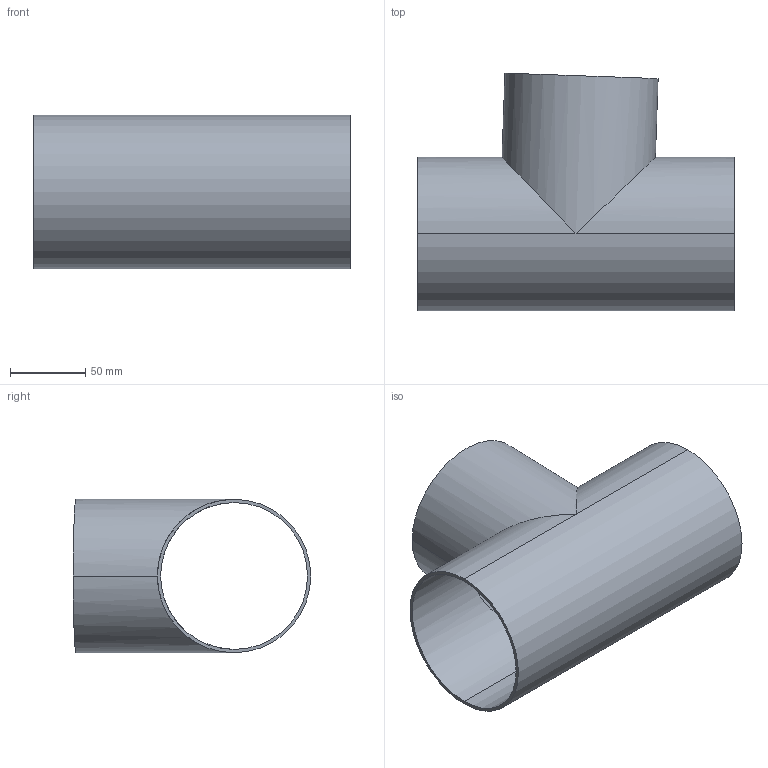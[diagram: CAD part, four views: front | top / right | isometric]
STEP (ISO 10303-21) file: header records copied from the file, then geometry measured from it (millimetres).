
FILE_DESCRIPTION (( 'STEP AP214' ), '1' );
FILE_NAME ('TE7WWW886L4.0-...STEP', '2016-05-23T04:59:21', ( 'eran' ), ( '' ), 'SwSTEP 2.0', 'SolidWorks 2016', '' );
FILE_SCHEMA (( 'AUTOMOTIVE_DESIGN' ));
Length unit declared in the file: millimetre
Products named in the file (1): TE7WWW886L4.0-..
Bounding box: 209.6 x 157.37 x 101.6 mm (x, y, z)
Volume: 165613.2 mm3; surface area: 161579.4 mm2
Topology: 2 solids, 2 shells, 15 faces, 36 edges, 24 vertices
Faces by surface type: cylinder 12, plane 3
Entity records: 849 total; most frequent: CARTESIAN_POINT 460, ORIENTED_EDGE 72, DIRECTION 68, EDGE_CURVE 36, AXIS2_PLACEMENT_3D 28, VERTEX_POINT 24, EDGE_LOOP 20, ADVANCED_FACE 15
